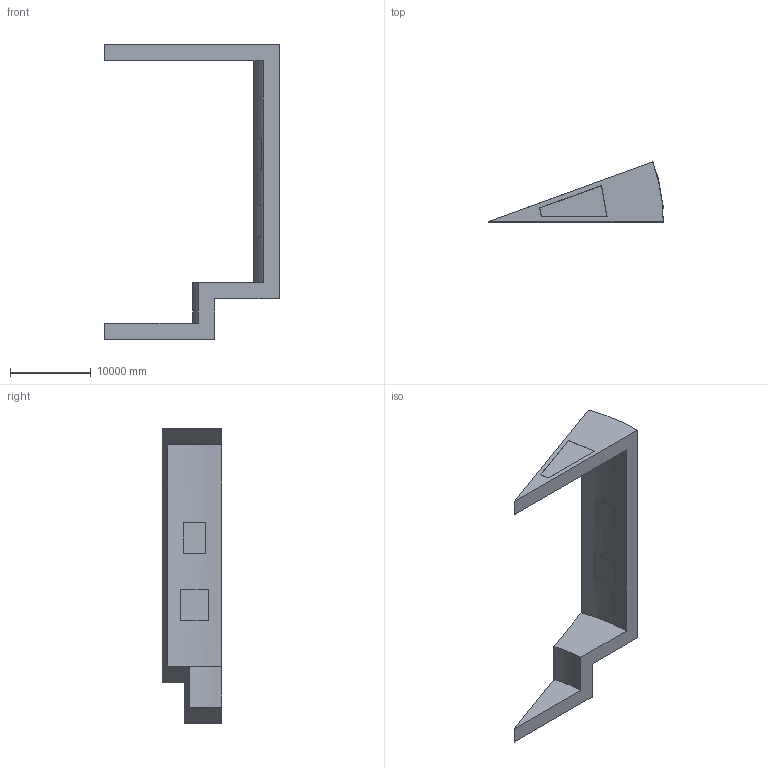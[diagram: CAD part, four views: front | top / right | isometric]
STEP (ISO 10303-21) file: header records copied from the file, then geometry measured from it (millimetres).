
FILE_DESCRIPTION(('FreeCAD Model'),'2;1');
FILE_NAME('Open CASCADE Shape Model','2026-10-11T08:18:57',('Bluemira'), ('Bluemira'),'Open CASCADE STEP processor 7.8','FreeCAD','Unknown');
FILE_SCHEMA(('AP242_MANAGED_MODEL_BASED_3D_ENGINEERING_MIM_LF. {1 0 10303 442 1 1 4 }'));
Length unit declared in the file: metre
Products named in the file (5): Unnamed; Body_1_1; RadiationPortPlug_0_1; RadiationPortPlug_1_1; RadiationPortPlug_2_1
Assembly tree (4 placements, depth 2):
  Unnamed
    Body_1_1
    RadiationPortPlug_0_1
    RadiationPortPlug_1_1
    RadiationPortPlug_2_1
Bounding box: 21628.69 x 7384.92 x 36411.29 mm (x, y, z)
Volume: 763691064209.6 mm3; surface area: 1309985511.9 mm2
Topology: 4 solids, 4 shells, 162 faces, 394 edges, 264 vertices
Faces by surface type: plane 158, cylinder 4
Entity records: 9882 total; most frequent: CARTESIAN_POINT 1665, DIRECTION 1514, LINE 1126, VECTOR 1126, ORIENTED_EDGE 788, PCURVE 788, DEFINITIONAL_REPRESENTATION 788, EDGE_CURVE 394
